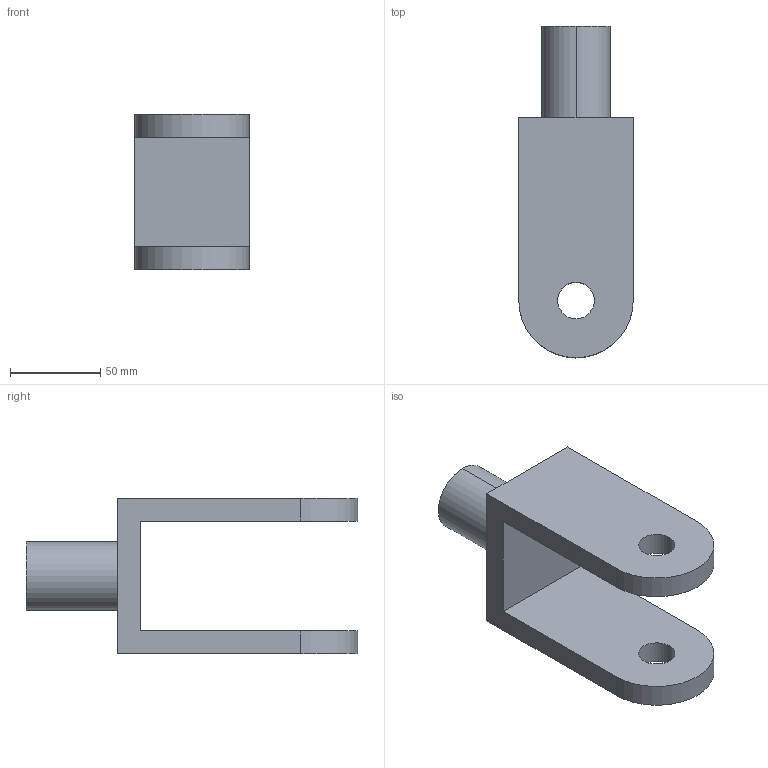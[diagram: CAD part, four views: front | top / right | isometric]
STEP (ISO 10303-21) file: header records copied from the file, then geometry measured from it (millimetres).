
FILE_DESCRIPTION (( 'STEP AP214' ), '1' );
FILE_NAME ('Joint1.STEP', '2025-11-06T19:06:45', ( '' ), ( '' ), 'SwSTEP 2.0', 'SolidWorks 2025', '' );
FILE_SCHEMA (( 'AUTOMOTIVE_DESIGN' ));
Length unit declared in the file: inch
Products named in the file (1): Joint1
Bounding box: 63.5 x 184.15 x 86.36 mm (x, y, z)
Volume: 302931.4 mm3; surface area: 55530.1 mm2
Topology: 1 solids, 1 shells, 17 faces, 42 edges, 28 vertices
Faces by surface type: plane 9, cylinder 8
Entity records: 547 total; most frequent: DIRECTION 94, CARTESIAN_POINT 88, ORIENTED_EDGE 84, EDGE_CURVE 42, AXIS2_PLACEMENT_3D 34, VERTEX_POINT 28, LINE 26, VECTOR 26
